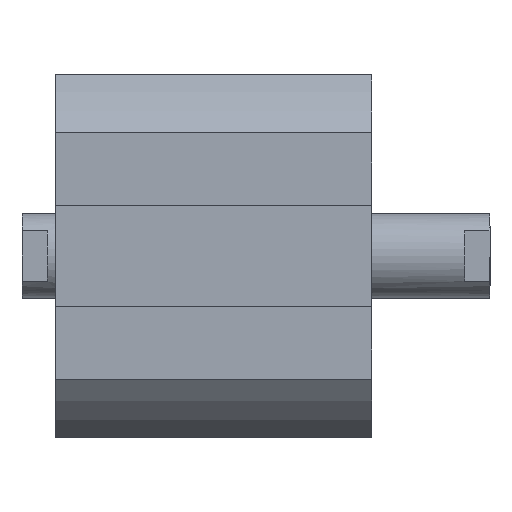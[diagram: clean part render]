
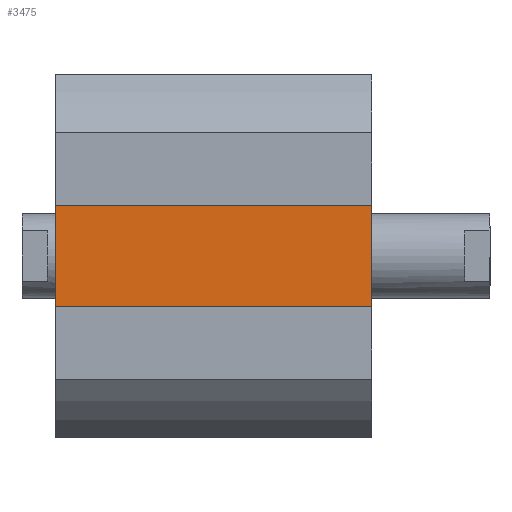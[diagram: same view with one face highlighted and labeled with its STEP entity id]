
A CAD part, left-side view. The second image highlights one B-rep face of the part: STEP entity #3475.
In plain terms, the highlighted planar face has unit normal (-1, 0, 0).
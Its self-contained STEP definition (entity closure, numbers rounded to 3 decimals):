
#23 = CARTESIAN_POINT ( 'NONE',  ( -14., -37.5, 0. ) ) ;
#90 = ORIENTED_EDGE ( 'NONE', *, *, #1191, .T. ) ;
#300 = VERTEX_POINT ( 'NONE', #466 ) ;
#325 = DIRECTION ( 'NONE',  ( 0., 0., 1. ) ) ;
#466 = CARTESIAN_POINT ( 'NONE',  ( -14., -37.5, -7.7 ) ) ;
#539 = CARTESIAN_POINT ( 'NONE',  ( -14., -37.5, 0. ) ) ;
#571 = AXIS2_PLACEMENT_3D ( 'NONE', #539, #2916, #1141 ) ;
#662 = CARTESIAN_POINT ( 'NONE',  ( -14., 0., -7.7 ) ) ;
#800 = LINE ( 'NONE', #3526, #1682 ) ;
#951 = VECTOR ( 'NONE', #325, 1000. ) ;
#970 = EDGE_CURVE ( 'NONE', #300, #1992, #800, .T. ) ;
#1027 = VECTOR ( 'NONE', #3781, 1000. ) ;
#1141 = DIRECTION ( 'NONE',  ( 0., 0., 1. ) ) ;
#1191 = EDGE_CURVE ( 'NONE', #300, #1882, #1518, .T. ) ;
#1241 = FACE_OUTER_BOUND ( 'NONE', #2556, .T. ) ;
#1459 = DIRECTION ( 'NONE',  ( 0., 1., 0. ) ) ;
#1518 = LINE ( 'NONE', #23, #951 ) ;
#1627 = VERTEX_POINT ( 'NONE', #3470 ) ;
#1629 = CARTESIAN_POINT ( 'NONE',  ( -14., -37.5, 7.7 ) ) ;
#1682 = VECTOR ( 'NONE', #1459, 1000. ) ;
#1713 = PLANE ( 'NONE',  #571 ) ;
#1756 = ORIENTED_EDGE ( 'NONE', *, *, #970, .F. ) ;
#1882 = VERTEX_POINT ( 'NONE', #2417 ) ;
#1992 = VERTEX_POINT ( 'NONE', #662 ) ;
#2296 = CARTESIAN_POINT ( 'NONE',  ( -14., 0., 0. ) ) ;
#2417 = CARTESIAN_POINT ( 'NONE',  ( -14., -37.5, 7.7 ) ) ;
#2547 = ORIENTED_EDGE ( 'NONE', *, *, #2970, .T. ) ;
#2556 = EDGE_LOOP ( 'NONE', ( #2787, #1756, #90, #2547 ) ) ;
#2668 = EDGE_CURVE ( 'NONE', #1992, #1627, #2839, .T. ) ;
#2787 = ORIENTED_EDGE ( 'NONE', *, *, #2668, .F. ) ;
#2839 = LINE ( 'NONE', #2296, #1027 ) ;
#2916 = DIRECTION ( 'NONE',  ( -1., 0., 0. ) ) ;
#2970 = EDGE_CURVE ( 'NONE', #1882, #1627, #3717, .T. ) ;
#3189 = DIRECTION ( 'NONE',  ( 0., 1., 0. ) ) ;
#3436 = VECTOR ( 'NONE', #3189, 1000. ) ;
#3470 = CARTESIAN_POINT ( 'NONE',  ( -14., 0., 7.7 ) ) ;
#3475 = ADVANCED_FACE ( 'NONE', ( #1241 ), #1713, .T. ) ;
#3526 = CARTESIAN_POINT ( 'NONE',  ( -14., -37.5, -7.7 ) ) ;
#3717 = LINE ( 'NONE', #1629, #3436 ) ;
#3781 = DIRECTION ( 'NONE',  ( 0., 0., 1. ) ) ;
